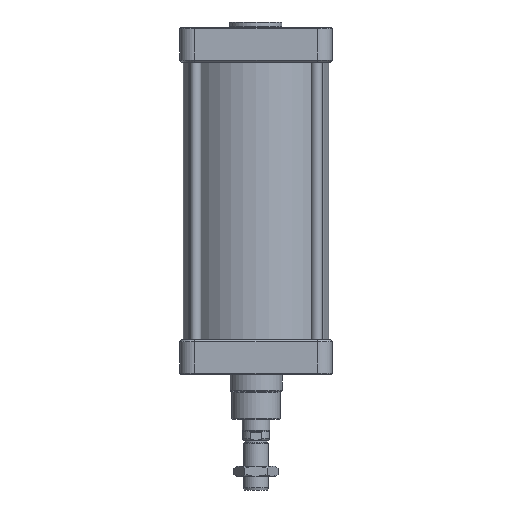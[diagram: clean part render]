
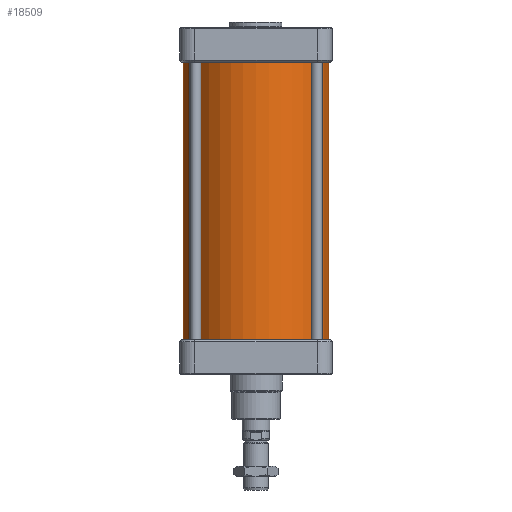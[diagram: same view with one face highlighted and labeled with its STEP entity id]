
A CAD part, front view. The second image highlights one B-rep face of the part: STEP entity #18509.
In plain terms, the highlighted cylindrical face has radius 105 mm (diameter 210 mm), a full revolution.
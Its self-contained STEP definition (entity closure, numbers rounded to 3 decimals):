
#1985=LINE('',#35239,#2997);
#2997=VECTOR('',#30361,1000.);
#4009=ORIENTED_EDGE('',*,*,#9819,.T.);
#4010=ORIENTED_EDGE('',*,*,#9820,.T.);
#4011=ORIENTED_EDGE('',*,*,#9821,.T.);
#4012=ORIENTED_EDGE('',*,*,#9820,.F.);
#9819=EDGE_CURVE('',#12724,#12724,#14523,.T.);
#9820=EDGE_CURVE('',#12724,#12725,#1985,.T.);
#9821=EDGE_CURVE('',#12725,#12725,#14524,.T.);
#12724=VERTEX_POINT('',#35238);
#12725=VERTEX_POINT('',#35240);
#14523=CIRCLE('',#28423,105.);
#14524=CIRCLE('',#28424,105.);
#15352=EDGE_LOOP('',(#4009,#4010,#4011,#4012));
#16734=FACE_BOUND('',#15352,.T.);
#18116=CYLINDRICAL_SURFACE('',#28422,105.);
#18509=ADVANCED_FACE('',(#16734),#18116,.T.);
#28422=AXIS2_PLACEMENT_3D('',#35236,#30357,#30358);
#28423=AXIS2_PLACEMENT_3D('',#35237,#30359,#30360);
#28424=AXIS2_PLACEMENT_3D('',#35241,#30362,#30363);
#30357=DIRECTION('',(0.,1.,0.));
#30358=DIRECTION('',(1.,0.,0.));
#30359=DIRECTION('',(0.,-1.,0.));
#30360=DIRECTION('',(1.,0.,0.));
#30361=DIRECTION('',(0.,-1.,0.));
#30362=DIRECTION('',(0.,1.,0.));
#30363=DIRECTION('',(1.,0.,0.));
#35236=CARTESIAN_POINT('',(0.,0.,0.));
#35237=CARTESIAN_POINT('',(0.,52.5,0.));
#35238=CARTESIAN_POINT('',(-105.,52.5,0.));
#35239=CARTESIAN_POINT('',(-105.,0.,0.));
#35240=CARTESIAN_POINT('',(-105.,-347.5,0.));
#35241=CARTESIAN_POINT('',(0.,-347.5,0.));
